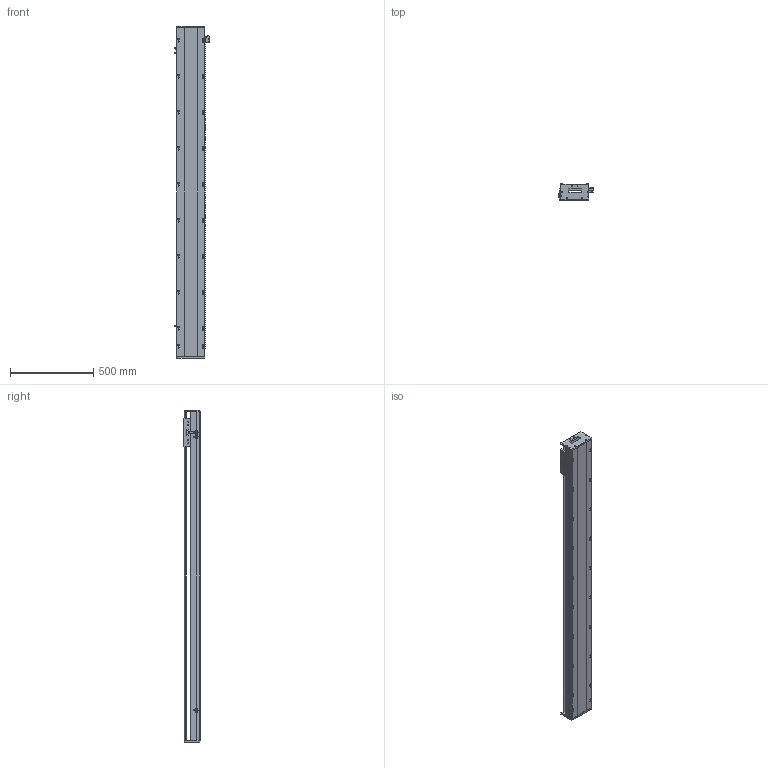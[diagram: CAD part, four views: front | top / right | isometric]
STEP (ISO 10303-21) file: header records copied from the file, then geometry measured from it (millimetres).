
FILE_DESCRIPTION (( 'STEP AP203' ), '1' );
FILE_NAME ('SKR17S-C1-S1722（简）.STEP', '2022-09-29T05:58:38', ( '' ), ( '' ), 'SwSTEP 2.0', 'SolidWorks 2018', '' );
FILE_SCHEMA (( 'CONFIG_CONTROL_DESIGN' ));
Length unit declared in the file: millimetre
Products named in the file (8): SKR17菁釱-C1-S1722(潠); SKR17耜啣; SKR17S-C1-S1722（简）; 感应片（SKR12S-14S-17S）; 棠掑假蚾輸; EE-SX672; SKR17滑台-170L（简）; SIKO棠掑
Assembly tree (10 placements, depth 2):
  SKR17S-C1-S1722（简）
    SKR17菁釱-C1-S1722(潠)
    SKR17滑台-170L（简）
    SIKO棠掑
    EE-SX672  x3
    SKR17耜啣  x2
    棠掑假蚾輸
    感应片（SKR12S-14S-17S）
Bounding box: 212.7 x 97 x 1992 mm (x, y, z)
Volume: 15335365.6 mm3; surface area: 1874817.9 mm2
Topology: 11 solids, 11 shells, 1281 faces, 3562 edges, 2291 vertices
Faces by surface type: cylinder 626, plane 523, cone 132
Entity records: 39814 total; most frequent: CARTESIAN_POINT 10841, ORIENTED_EDGE 6120, DIRECTION 5592, EDGE_CURVE 3060, VERTEX_POINT 1995, AXIS2_PLACEMENT_3D 1994, VECTOR 1604, LINE 1604
